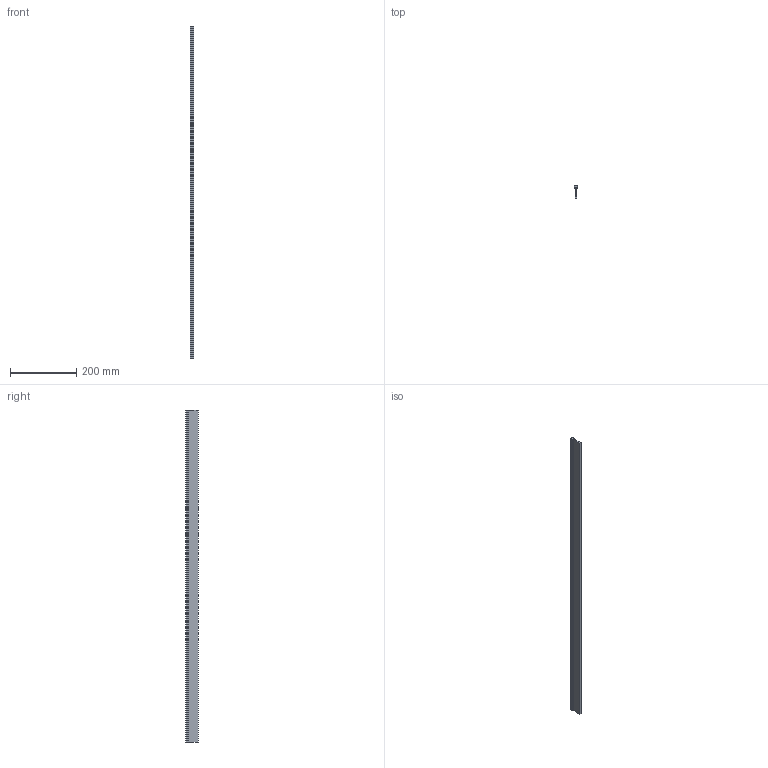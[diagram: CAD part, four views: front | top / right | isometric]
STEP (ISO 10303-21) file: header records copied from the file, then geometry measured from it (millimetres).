
FILE_DESCRIPTION((''),'2;1');
FILE_NAME('C:\Documents and Settings\Administrator\My Documents\Andys Backup Data\WEBSITE\DREAMWEAVER\MiniTec\Products\Edge_Cover_Slide_Sealing_Profiles\CAD\Step\22.1150 STRIP BRUSH 30.stp','2012-10-25T11:29:45',('Administrator'),(''),'Autodesk Inventor 2009','Autodesk Inventor 2009','');
FILE_SCHEMA(('AUTOMOTIVE_DESIGN { 1 0 10303 214 1 1 1 1 }'));
Length unit declared in the file: inch
Products named in the file (1): 22.1150 STRIP BRUSH 30
Bounding box: 12 x 38.5 x 1000 mm (x, y, z)
Volume: 179426.6 mm3; surface area: 128599.2 mm2
Topology: 2 solids, 2 shells, 30 faces, 78 edges, 52 vertices
Faces by surface type: plane 24, cylinder 6
Entity records: 990 total; most frequent: CARTESIAN_POINT 161, ORIENTED_EDGE 156, DIRECTION 152, EDGE_CURVE 78, VECTOR 66, LINE 66, VERTEX_POINT 52, AXIS2_PLACEMENT_3D 43
